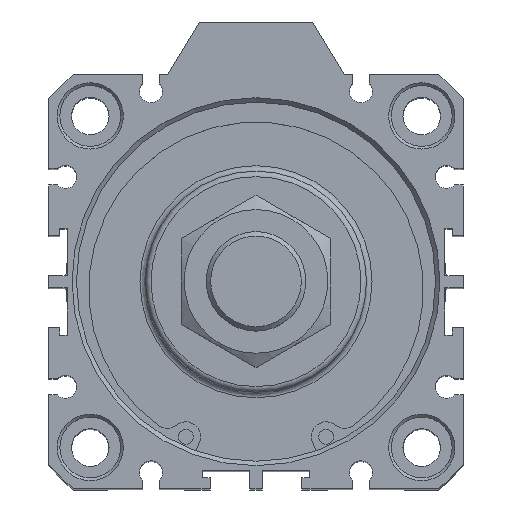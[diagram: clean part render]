
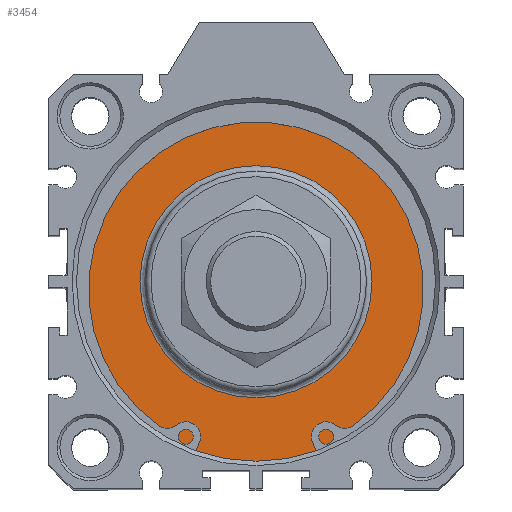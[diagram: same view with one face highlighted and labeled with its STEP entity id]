
A CAD part, top view. The second image highlights one B-rep face of the part: STEP entity #3454.
In plain terms, the highlighted planar face has unit normal (0, 0, 1).
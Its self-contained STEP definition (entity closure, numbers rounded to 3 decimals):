
#3403=CARTESIAN_POINT('',(2.99,22.555,112.3));
#3404=VERTEX_POINT('',#3403);
#3405=CARTESIAN_POINT('',(2.99,1.555,112.3));
#3406=DIRECTION('',(0.0,0.0,1.0));
#3407=DIRECTION('',(0.0,-1.0,0.0));
#3408=AXIS2_PLACEMENT_3D('',#3405,#3406,#3407);
#3409=CIRCLE('',#3408,21.);
#3410=EDGE_CURVE('',#3404,#3404,#3409,.T.);
#3435=CARTESIAN_POINT('',(2.99,27.805,112.3));
#3436=DIRECTION('',(0.0,0.0,1.0));
#3437=DIRECTION('',(1.0,0.0,0.0));
#3438=AXIS2_PLACEMENT_3D('',#3435,#3436,#3437);
#3439=PLANE('',#3438);
#3440=CARTESIAN_POINT('',(2.99,34.055,112.3));
#3441=VERTEX_POINT('',#3440);
#3442=CARTESIAN_POINT('',(2.99,1.555,112.3));
#3443=DIRECTION('',(0.0,0.0,-1.0));
#3444=DIRECTION('',(0.0,1.0,0.0));
#3445=AXIS2_PLACEMENT_3D('',#3442,#3443,#3444);
#3446=CIRCLE('',#3445,32.5);
#3447=EDGE_CURVE('',#3441,#3441,#3446,.T.);
#3448=ORIENTED_EDGE('',*,*,#3447,.F.);
#3449=EDGE_LOOP('',(#3448));
#3450=FACE_OUTER_BOUND('',#3449,.T.);
#3451=ORIENTED_EDGE('',*,*,#3410,.F.);
#3452=EDGE_LOOP('',(#3451));
#3453=FACE_BOUND('',#3452,.T.);
#3454=ADVANCED_FACE('',(#3450,#3453),#3439,.T.);
